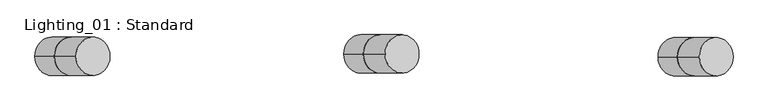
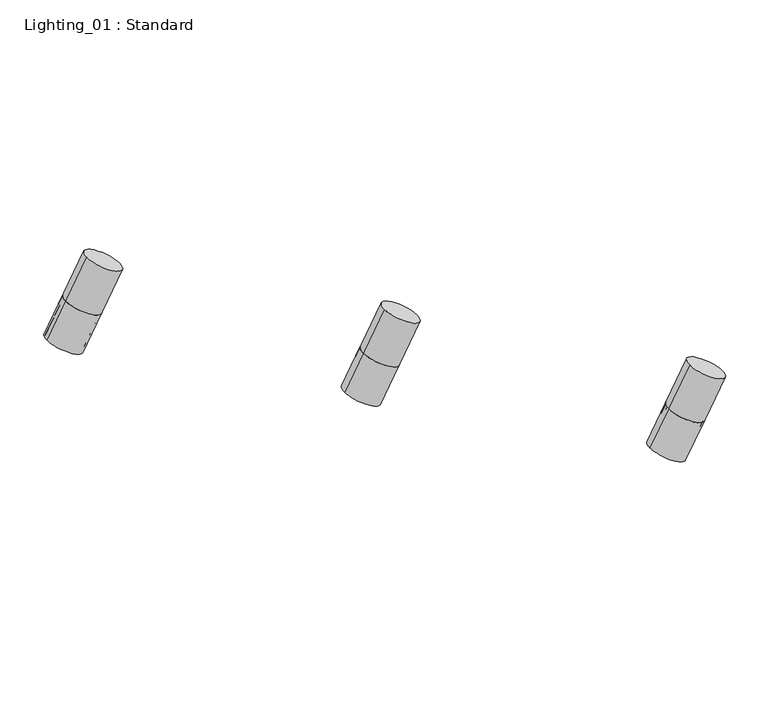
"""IFC4 building model written with IfcOpenShell, lengths in millimetres: light fixture geometry, Lighting_01 : Standard."""

from ifc_helpers import new_model, si_unit, point, frame, frame_2d, origin, place, context, project, spatial, circle_curve, trimmed, segment, composite_curve, outline, extrude, source, transform, mapped, element, save


def lighting_01_standard_0bba7b14(model_context):
    return source(origin(), model_context, "Body", "SweptSolid", [
        extrude(outline(composite_curve([segment(trimmed(circle_curve(frame_2d((0.0, -50.0)), 50.0), [point((0.0, 0.0))], [point((0.0, -100.0))], False, "CARTESIAN"), True, "CONTINUOUS"), segment(trimmed(circle_curve(frame_2d((0.0, -50.0)), 50.0), [point((0.0, -100.0))], [point((0.0, 0.0))], False, "CARTESIAN"), True, "CONTINUOUS")], self_intersect=False), holes=[composite_curve([segment(trimmed(circle_curve(frame_2d((0.0, -50.0)), 46.0), [point((0.0, -4.0))], [point((0.0, -96.0))], True, "CARTESIAN"), True, "CONTINUOUS"), segment(trimmed(circle_curve(frame_2d((0.0, -50.0)), 46.0), [point((0.0, -96.0))], [point((0.0, -4.0))], True, "CARTESIAN"), True, "CONTINUOUS")], self_intersect=False)]), frame((3929.0863722, 15976.0767503, 9676.122564), z_axis=(0.4740882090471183, 0.0, 0.880477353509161), x_axis=(0.0, 1.0, 0.0)), (0.0, 0.0, 1.0), 105.8911577),
        extrude(outline(composite_curve([segment(trimmed(circle_curve(frame_2d((7.4328934, 876.5019983)), 50.0), [point((7.4328934, 926.5019983))], [point((7.4328934, 826.5019982))], False, "CARTESIAN"), True, "CONTINUOUS"), segment(trimmed(circle_curve(frame_2d((7.4328934, 876.5019983)), 50.0), [point((7.4328934, 826.5019982))], [point((7.4328934, 926.5019983))], False, "CARTESIAN"), True, "CONTINUOUS")], self_intersect=False), holes=[composite_curve([segment(trimmed(circle_curve(frame_2d((7.4328934, 876.5019983)), 46.0), [point((7.4328934, 922.5019983))], [point((7.4328934, 830.5019983))], True, "CARTESIAN"), True, "CONTINUOUS"), segment(trimmed(circle_curve(frame_2d((7.4328934, 876.5019983)), 46.0), [point((7.4328934, 830.5019983))], [point((7.4328934, 922.5019983))], True, "CARTESIAN"), True, "CONTINUOUS")], self_intersect=False)]), frame((3929.0863722, 15976.0767503, 9676.122564), z_axis=(0.4740882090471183, 0.0, 0.880477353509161), x_axis=(0.0, 1.0, 0.0)), (0.0, 0.0, 1.0), 105.8911577),
        extrude(outline(composite_curve([segment(trimmed(circle_curve(frame_2d((1.0066462, 1788.1450127)), 50.0), [point((1.0066462, 1738.1450127))], [point((1.0066462, 1838.1450127))], False, "CARTESIAN"), True, "CONTINUOUS"), segment(trimmed(circle_curve(frame_2d((1.0066462, 1788.1450127)), 50.0), [point((1.0066462, 1838.1450127))], [point((1.0066462, 1738.1450127))], False, "CARTESIAN"), True, "CONTINUOUS")], self_intersect=False), holes=[composite_curve([segment(trimmed(circle_curve(frame_2d((1.0066462, 1788.1450127)), 46.0), [point((1.0066462, 1834.1450128))], [point((1.0066462, 1742.1450127))], True, "CARTESIAN"), True, "CONTINUOUS"), segment(trimmed(circle_curve(frame_2d((1.0066462, 1788.1450127)), 46.0), [point((1.0066462, 1742.1450127))], [point((1.0066462, 1834.1450128))], True, "CARTESIAN"), True, "CONTINUOUS")], self_intersect=False)]), frame((3929.0863722, 15976.0767503, 9676.122564), z_axis=(0.4740882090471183, 0.0, 0.880477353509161), x_axis=(0.0, 1.0, 0.0)), (0.0, 0.0, 1.0), 105.8911577),
        extrude(outline(composite_curve([segment(trimmed(circle_curve(frame_2d((0.0, -50.0)), 50.0), [point((0.0, 0.0))], [point((0.0, -100.0))], False, "CARTESIAN"), True, "CONTINUOUS"), segment(trimmed(circle_curve(frame_2d((0.0, -50.0)), 50.0), [point((0.0, -100.0))], [point((0.0, 0.0))], False, "CARTESIAN"), True, "CONTINUOUS")], self_intersect=False)), frame((3968.2419833, 15976.0767503, 9748.8424253), z_axis=(0.4740882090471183, 0.0, 0.880477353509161), x_axis=(0.0, 1.0, 0.0)), (0.0, 0.0, 1.0), 142.3812194),
        extrude(outline(composite_curve([segment(trimmed(circle_curve(frame_2d((7.4328934, 876.5019983)), 50.0), [point((7.4328934, 926.5019983))], [point((7.4328934, 826.5019983))], False, "CARTESIAN"), True, "CONTINUOUS"), segment(trimmed(circle_curve(frame_2d((7.4328934, 876.5019983)), 50.0), [point((7.4328934, 826.5019983))], [point((7.4328934, 926.5019983))], False, "CARTESIAN"), True, "CONTINUOUS")], self_intersect=False)), frame((3968.2419833, 15976.0767503, 9748.8424253), z_axis=(0.4740882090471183, 0.0, 0.880477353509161), x_axis=(0.0, 1.0, 0.0)), (0.0, 0.0, 1.0), 142.3812194),
        extrude(outline(composite_curve([segment(trimmed(circle_curve(frame_2d((1.0066462, 1788.1450128)), 50.0), [point((1.0066462, 1738.1450127))], [point((1.0066462, 1838.1450128))], False, "CARTESIAN"), True, "CONTINUOUS"), segment(trimmed(circle_curve(frame_2d((1.0066462, 1788.1450128)), 50.0), [point((1.0066462, 1838.1450128))], [point((1.0066462, 1738.1450127))], False, "CARTESIAN"), True, "CONTINUOUS")], self_intersect=False)), frame((3968.2419833, 15976.0767503, 9748.8424253), z_axis=(0.4740882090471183, 0.0, 0.880477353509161), x_axis=(0.0, 1.0, 0.0)), (0.0, 0.0, 1.0), 142.3812194),
    ])


if __name__ == "__main__":
    model = new_model("IFC4")
    model_context = context("Model", 3, world=origin())
    ifc_project = project(units=[si_unit("LENGTHUNIT", "METRE", prefix="MILLI")], contexts=[model_context])
    site = spatial("IfcSite", under=ifc_project)
    building = spatial("IfcBuilding", under=site)
    placement = place(None, origin())
    lighting_01_standard_shape = lighting_01_standard_0bba7b14(model_context)
    element("IfcLightFixture", 1, ObjectType="Lighting_01 : Standard", at=placement, inside=building, context=model_context, shape_type="MappedRepresentation", body=[
        mapped(lighting_01_standard_shape, transform((0.0, 0.0, 0.0), x_axis=(1.0, 0.0, 0.0), y_axis=(0.0, 1.0, 0.0), z_axis=(0.0, 0.0, 1.0))),
    ])
    save(model, "model.ifc")
